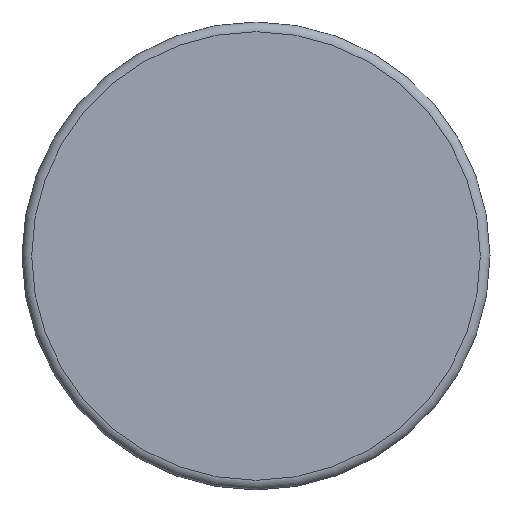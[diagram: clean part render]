
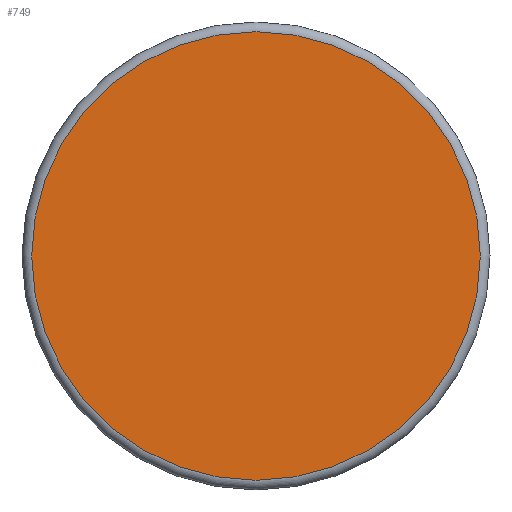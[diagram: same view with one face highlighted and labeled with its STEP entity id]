
A CAD part, top view. The second image highlights one B-rep face of the part: STEP entity #749.
In plain terms, the highlighted planar face has unit normal (0, 0, 1).
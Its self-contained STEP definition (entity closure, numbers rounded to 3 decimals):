
#718=CARTESIAN_POINT('',(230.05,0.,304.0));
#719=VERTEX_POINT('',#718);
#720=CARTESIAN_POINT('',(0.,0.,304.0));
#721=DIRECTION('',(0.0,0.0,-1.0));
#722=DIRECTION('',(-1.0,0.0,0.0));
#723=AXIS2_PLACEMENT_3D('',#720,#721,#722);
#724=CIRCLE('',#723,230.05);
#725=EDGE_CURVE('',#719,#719,#724,.T.);
#741=CARTESIAN_POINT('',(0.,0.,304.0));
#742=DIRECTION('',(0.0,0.0,-1.0));
#743=DIRECTION('',(1.0,0.0,0.0));
#744=AXIS2_PLACEMENT_3D('',#741,#742,#743);
#745=PLANE('',#744);
#746=ORIENTED_EDGE('',*,*,#725,.F.);
#747=EDGE_LOOP('',(#746));
#748=FACE_OUTER_BOUND('',#747,.T.);
#749=ADVANCED_FACE('',(#748),#745,.F.);
